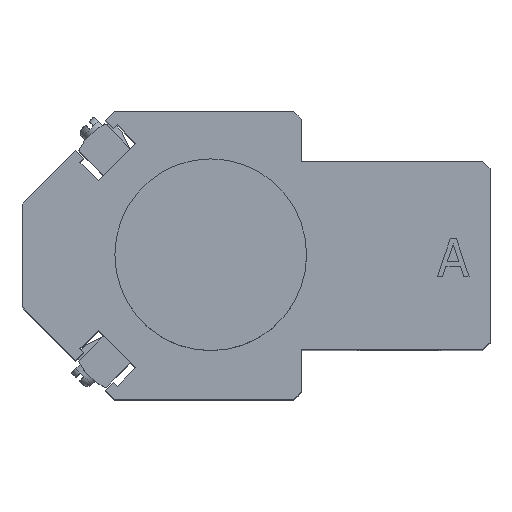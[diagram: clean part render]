
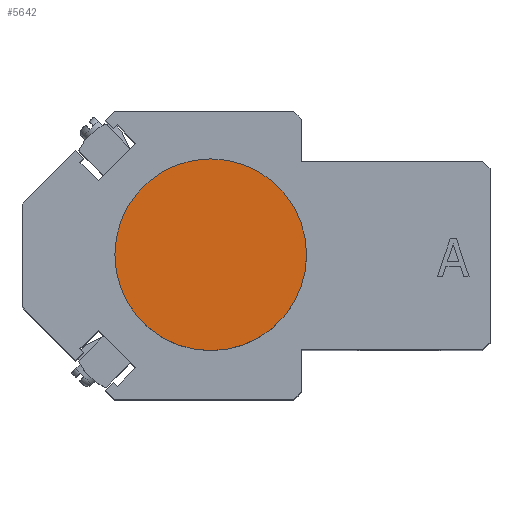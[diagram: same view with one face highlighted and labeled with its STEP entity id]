
A CAD part, top view. The second image highlights one B-rep face of the part: STEP entity #5642.
In plain terms, the highlighted planar face has unit normal (0, 0, 1) as drawn and (1, 0, 0) by its records, which use the part's own axes.
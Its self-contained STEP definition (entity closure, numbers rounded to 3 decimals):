
#480=PLANE('',#6457);
#764=FACE_OUTER_BOUND('',#1101,.T.);
#1101=EDGE_LOOP('',(#5230,#5231));
#2367=CIRCLE('',#6458,12.7);
#2368=CIRCLE('',#6459,12.7);
#2906=VERTEX_POINT('',#9825);
#2907=VERTEX_POINT('',#9826);
#3688=EDGE_CURVE('',#2906,#2907,#2367,.T.);
#3689=EDGE_CURVE('',#2907,#2906,#2368,.T.);
#5230=ORIENTED_EDGE('',*,*,#3688,.F.);
#5231=ORIENTED_EDGE('',*,*,#3689,.F.);
#5642=ADVANCED_FACE('',(#764),#480,.T.);
#6457=AXIS2_PLACEMENT_3D('',#9824,#8059,#8060);
#6458=AXIS2_PLACEMENT_3D('',#9827,#8061,#8062);
#6459=AXIS2_PLACEMENT_3D('',#9828,#8063,#8064);
#8059=DIRECTION('center_axis',(1.,0.,0.));
#8060=DIRECTION('ref_axis',(0.,0.,-1.));
#8061=DIRECTION('center_axis',(-1.,0.,0.));
#8062=DIRECTION('ref_axis',(0.,-1.,0.));
#8063=DIRECTION('center_axis',(-1.,0.,0.));
#8064=DIRECTION('ref_axis',(0.,-1.,0.));
#9824=CARTESIAN_POINT('Origin',(13.,-6.35,0.));
#9825=CARTESIAN_POINT('',(13.,-12.7,0.));
#9826=CARTESIAN_POINT('',(13.,12.7,0.));
#9827=CARTESIAN_POINT('Origin',(13.,0.,0.));
#9828=CARTESIAN_POINT('Origin',(13.,0.,0.));
